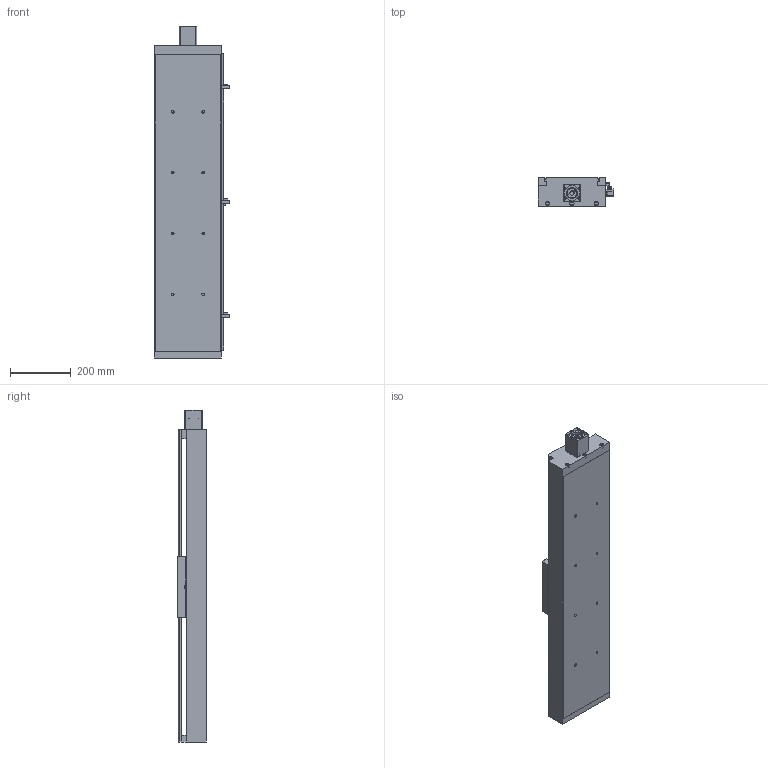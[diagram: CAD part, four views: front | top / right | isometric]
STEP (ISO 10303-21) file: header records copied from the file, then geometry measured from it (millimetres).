
FILE_DESCRIPTION((''),'2;1');
FILE_NAME('E:\libraries\UIA actuator library 2016\standard actuator\UIA220R20NDC\UIA220R20NDC ball screw 25\UIA220R20NDC-_ _ _-R25_ _ stp file, 01May16\UIA220R20NDC-750-R25_ _-M60-P13-C10-S.stp','2016-04-29T17:32:37',('h029'),(''),'Autodesk Inventor 11','Autodesk Inventor 11','');
FILE_SCHEMA(('AUTOMOTIVE_DESIGN { 1 0 10303 214 1 1 1 1 }'));
Length unit declared in the file: millimetre
Products named in the file (10): UIA220R20NDC-750-R25_ _; UIA220R20NDC-body; 41-100 0010 CARRIAGE; sensor rail; Sensor Switch; motor mount M60; SOH-32C; SOH-32C-3; SOH-32C-1; SOH-32C-2
Assembly tree (9 placements, depth 3):
  UIA220R20NDC-750-R25_ _
    UIA220R20NDC-body
    41-100 0010 CARRIAGE
    sensor rail
    Sensor Switch
    motor mount M60
    SOH-32C
      SOH-32C-3
      SOH-32C-1
      SOH-32C-2
Bounding box: 246.5 x 96 x 1091 mm (x, y, z)
Volume: 6472751.7 mm3; surface area: 1514673.6 mm2
Topology: 8 solids, 8 shells, 511 faces, 1365 edges, 897 vertices
Faces by surface type: plane 342, bspline 121, cylinder 46, cone 2
Full cylindrical faces by diameter (mm): 3.242 x2, 4.5 x2, 7 x4, 7.5 x2, 13.8 x3, 14 x6, 17 x1, 32 x3, 37 x1, 50.3 x1, 50.5 x1
Entity records: 16706 total; most frequent: CARTESIAN_POINT 4729, ORIENTED_EDGE 2328, DIRECTION 2277, EDGE_CURVE 1164, VECTOR 849, LINE 849, VERTEX_POINT 823, EDGE_LOOP 741
